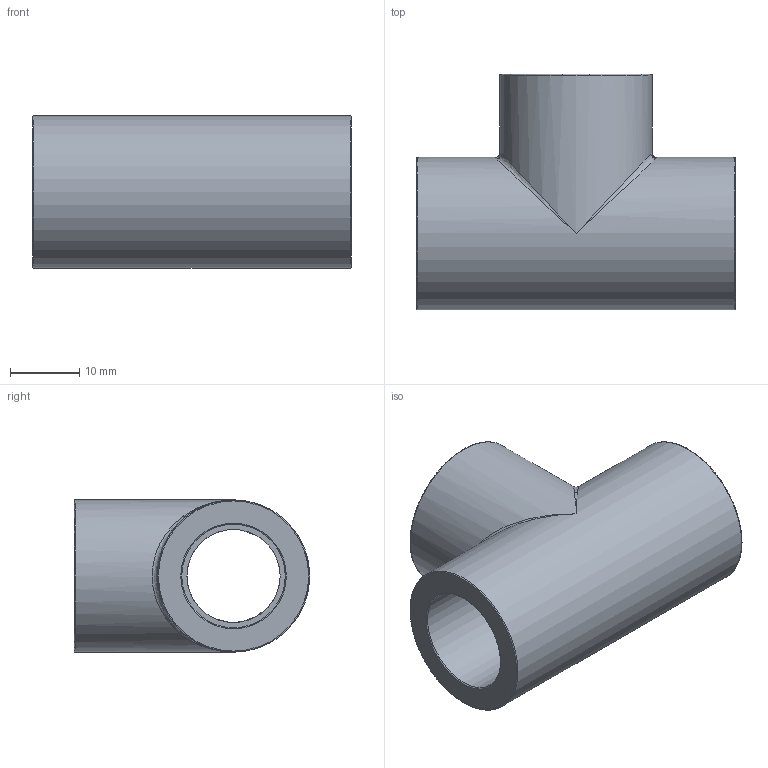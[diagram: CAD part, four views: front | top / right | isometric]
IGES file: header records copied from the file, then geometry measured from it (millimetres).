
Global section: file name: 050401003.ipt; native system: Autodesk Inventor 2015; preprocessor: unknown; author: KIM; date: 20171207.164448; units: millimetre
Bounding box: 46 x 34 x 22 mm (x, y, z)
Volume: 12382 mm3; surface area: 7224.6 mm2
Topology: 1 solids, 1 shells, 20 faces, 61 edges, 42 vertices
Faces by surface type: revolution 10, plane 6, bspline 2, cylinder 2
Full cylindrical faces by diameter (mm): 22 x2
